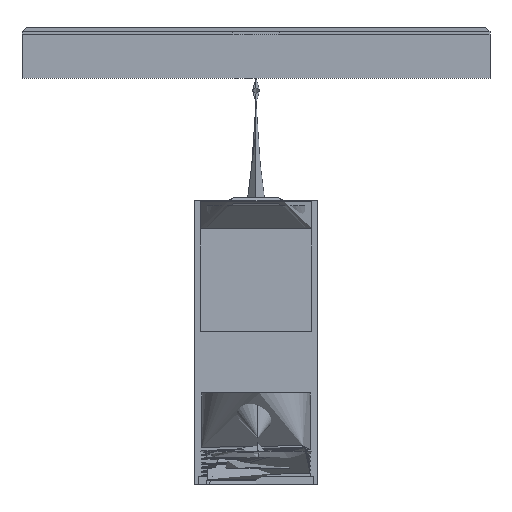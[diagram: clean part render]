
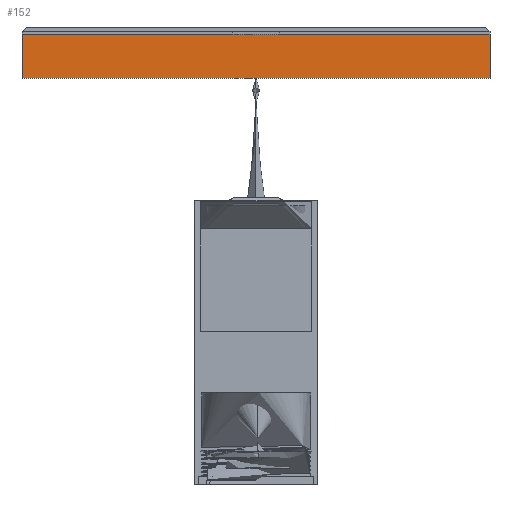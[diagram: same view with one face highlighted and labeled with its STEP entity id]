
A CAD part, front view. The second image highlights one B-rep face of the part: STEP entity #152.
In plain terms, the highlighted planar face has unit normal (0, -1, 0).
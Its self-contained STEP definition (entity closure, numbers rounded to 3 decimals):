
#152=ADVANCED_FACE('',(#499),#5236,.T.);
#499=FACE_OUTER_BOUND('',#852,.T.);
#852=EDGE_LOOP('',(#1513,#1514,#1515,#1516));
#1513=ORIENTED_EDGE('',*,*,#3092,.T.);
#1514=ORIENTED_EDGE('',*,*,#3093,.T.);
#1515=ORIENTED_EDGE('',*,*,#3094,.T.);
#1516=ORIENTED_EDGE('',*,*,#3095,.T.);
#3092=EDGE_CURVE('',#4792,#4793,#3859,.T.);
#3093=EDGE_CURVE('',#4793,#4794,#3860,.T.);
#3094=EDGE_CURVE('',#4794,#4795,#3861,.T.);
#3095=EDGE_CURVE('',#4795,#4792,#3862,.T.);
#3859=B_SPLINE_CURVE_WITH_KNOTS('',1,(#9686,#9687),.UNSPECIFIED.,.F.,.F.,
(2,2),(0.,168.),.UNSPECIFIED.);
#3860=B_SPLINE_CURVE_WITH_KNOTS('',1,(#9688,#9689),.UNSPECIFIED.,.F.,.F.,
(2,2),(0.,15.8),.UNSPECIFIED.);
#3861=B_SPLINE_CURVE_WITH_KNOTS('',1,(#9690,#9691),.UNSPECIFIED.,.F.,.F.,
(2,2),(0.,168.),.UNSPECIFIED.);
#3862=B_SPLINE_CURVE_WITH_KNOTS('',1,(#9692,#9693),.UNSPECIFIED.,.F.,.F.,
(2,2),(0.,15.8),.UNSPECIFIED.);
#4792=VERTEX_POINT('',#9678);
#4793=VERTEX_POINT('',#9679);
#4794=VERTEX_POINT('',#9680);
#4795=VERTEX_POINT('',#9681);
#5236=PLANE('',#5602);
#5602=AXIS2_PLACEMENT_3D('',#9672,#5730,$);
#5730=DIRECTION('',(0.,-1.,0.));
#9672=CARTESIAN_POINT('',(-122.326,-59.959,263.755));
#9678=CARTESIAN_POINT('',(-105.526,-59.959,246.375));
#9679=CARTESIAN_POINT('',(62.474,-59.959,246.375));
#9680=CARTESIAN_POINT('',(62.474,-59.959,262.175));
#9681=CARTESIAN_POINT('',(-105.526,-59.959,262.175));
#9686=CARTESIAN_POINT('',(-105.526,-59.959,246.375));
#9687=CARTESIAN_POINT('',(62.474,-59.959,246.375));
#9688=CARTESIAN_POINT('',(62.474,-59.959,246.375));
#9689=CARTESIAN_POINT('',(62.474,-59.959,262.175));
#9690=CARTESIAN_POINT('',(62.474,-59.959,262.175));
#9691=CARTESIAN_POINT('',(-105.526,-59.959,262.175));
#9692=CARTESIAN_POINT('',(-105.526,-59.959,262.175));
#9693=CARTESIAN_POINT('',(-105.526,-59.959,246.375));
